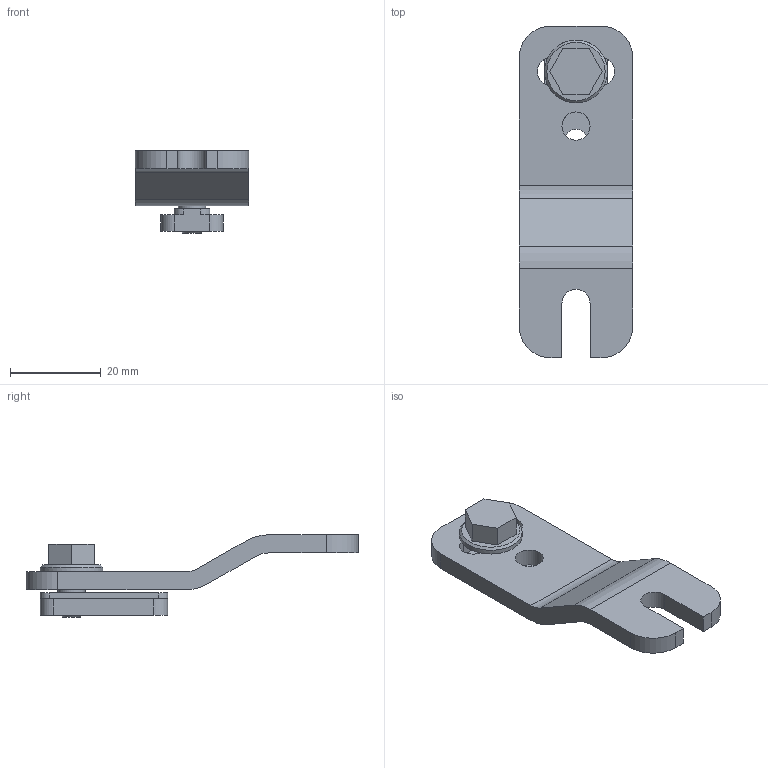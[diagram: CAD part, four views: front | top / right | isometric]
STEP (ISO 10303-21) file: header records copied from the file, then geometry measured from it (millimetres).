
FILE_DESCRIPTION((''),'2;1');
FILE_NAME('M:\INVENTORjob\Konstruktion\Freigabe Projektübergreifende Bauteile\BT\stp\429052_BT-Z.stp','2011-12-08T13:02:02',('seisen'),(''),'Autodesk Inventor 2009','Autodesk Inventor 2009','');
FILE_SCHEMA(('AUTOMOTIVE_DESIGN { 1 0 10303 214 1 1 1 1 }'));
Length unit declared in the file: millimetre
Products named in the file (1): 429052_BT-Z
Bounding box: 25 x 73.01 x 18.14 mm (x, y, z)
Volume: 8793.5 mm3; surface area: 5919.8 mm2
Topology: 1 solids, 1 shells, 61 faces, 168 edges, 111 vertices
Faces by surface type: plane 35, cylinder 24, cone 2
Full cylindrical faces by diameter (mm): 4.65 x1, 5.55 x1, 6 x1, 6.2 x1, 13.8 x1
Entity records: 1996 total; most frequent: DIRECTION 338, CARTESIAN_POINT 326, ORIENTED_EDGE 314, EDGE_CURVE 157, AXIS2_PLACEMENT_3D 119, VERTEX_POINT 107, VECTOR 100, LINE 100
